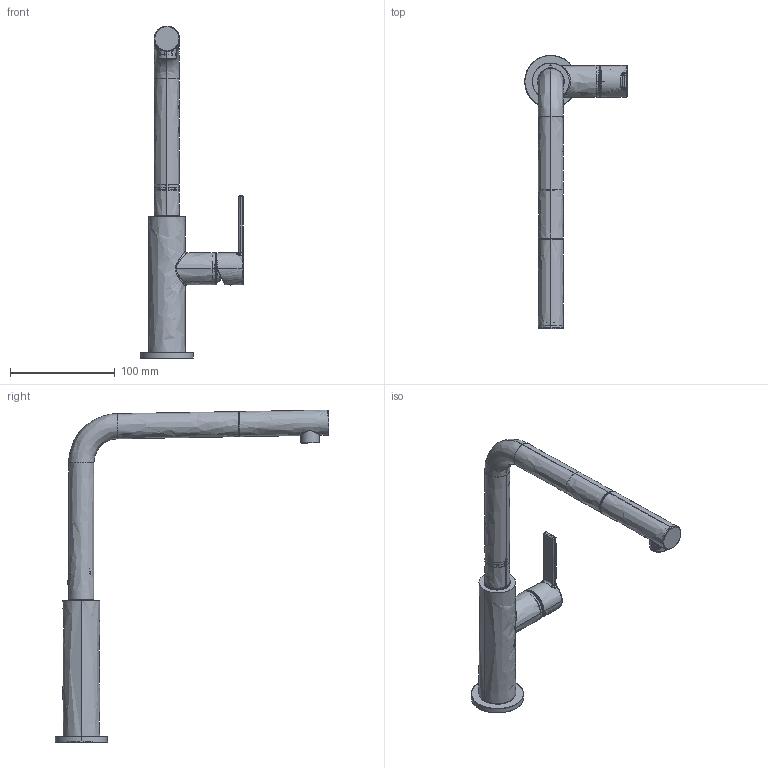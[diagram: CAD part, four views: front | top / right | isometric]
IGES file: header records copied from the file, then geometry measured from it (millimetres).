
Global section: file name: F:\_CONVERSIONE_CAD_2024_2025\PACCHETTI_2026\NUOVI_PACCHETTI_LUGLIO\PRIORITY_3\3D001_Taps_Maris-Slim_L-Pull-Out-Nozzle\3D001_Taps_Maris-Slim_L-Pull-Out-Nozzle.igs; native system: Rhinoceros ( May  6 2026 ); preprocessor: Trout Lake IGES 012 May  6 2026; date: 260804.145714; units: millimetre
Bounding box: 97.95 x 261.17 x 316.79 mm (x, y, z)
Surface area: 96942.8 mm2 (no closed solid volume)
Topology: 0 solids, 0 shells, 2488 faces, 13841 edges, 13811 vertices
Faces by surface type: bspline 2488
